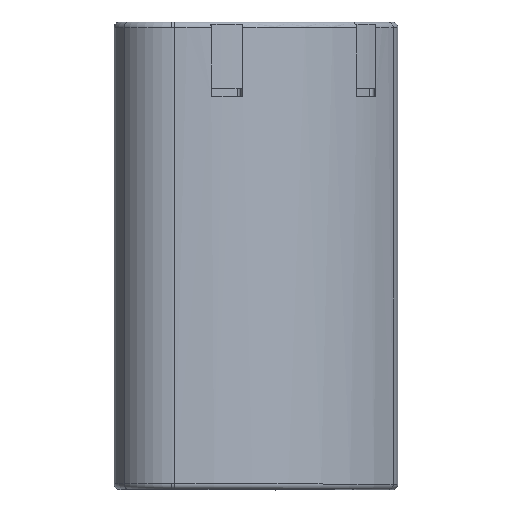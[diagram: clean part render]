
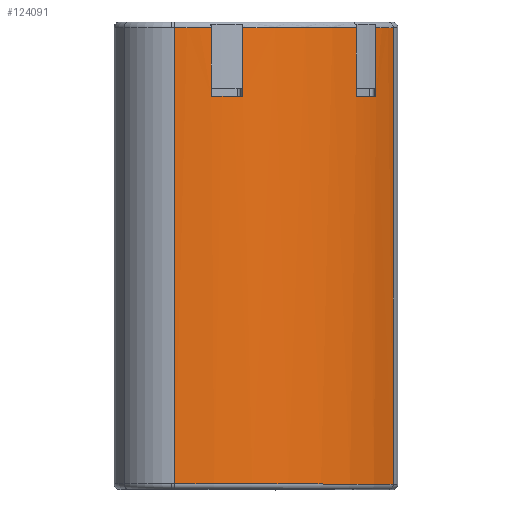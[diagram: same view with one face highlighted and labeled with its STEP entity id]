
A CAD part, top view. The second image highlights one B-rep face of the part: STEP entity #124091.
In plain terms, the highlighted cylindrical face has radius 46 mm (diameter 92 mm), a partial arc.
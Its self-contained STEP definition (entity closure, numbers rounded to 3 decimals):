
#4731 = ORIENTED_EDGE ( 'NONE', *, *, #161964, .T. ) ;
#5377 = VERTEX_POINT ( 'NONE', #63649 ) ;
#9258 = LINE ( 'NONE', #18256, #56461 ) ;
#11492 = CARTESIAN_POINT ( 'NONE',  ( 2.407, 1., 45.937 ) ) ;
#13729 = DIRECTION ( 'NONE',  ( 0., 1., 0. ) ) ;
#14701 = DIRECTION ( 'NONE',  ( 0., 1., 0. ) ) ;
#15921 = DIRECTION ( 'NONE',  ( 0., -1., 0. ) ) ;
#18256 = CARTESIAN_POINT ( 'NONE',  ( 42.023, 84.8, 18.71 ) ) ;
#19686 = ORIENTED_EDGE ( 'NONE', *, *, #161058, .F. ) ;
#20620 = LINE ( 'NONE', #165040, #42028 ) ;
#20732 = CARTESIAN_POINT ( 'NONE',  ( 42.023, 1., 18.71 ) ) ;
#21273 = AXIS2_PLACEMENT_3D ( 'NONE', #122080, #120928, #65538 ) ;
#23513 = CARTESIAN_POINT ( 'NONE',  ( 0., 84.8, 0. ) ) ;
#25273 = VERTEX_POINT ( 'NONE', #153564 ) ;
#27508 = DIRECTION ( 'NONE',  ( 0., 0., 1. ) ) ;
#28202 = EDGE_CURVE ( 'NONE', #132418, #69460, #53023, .T. ) ;
#33699 = ORIENTED_EDGE ( 'NONE', *, *, #63734, .F. ) ;
#34965 = ORIENTED_EDGE ( 'NONE', *, *, #171893, .T. ) ;
#35967 = ORIENTED_EDGE ( 'NONE', *, *, #100889, .F. ) ;
#36297 = ORIENTED_EDGE ( 'NONE', *, *, #28202, .F. ) ;
#37222 = CARTESIAN_POINT ( 'NONE',  ( 0., 71.3, 0. ) ) ;
#37949 = EDGE_CURVE ( 'NONE', #69460, #5377, #134754, .T. ) ;
#41941 = DIRECTION ( 'NONE',  ( 0., 1., 0. ) ) ;
#42028 = VECTOR ( 'NONE', #41941, 1000. ) ;
#43330 = VERTEX_POINT ( 'NONE', #117598 ) ;
#44153 = FACE_OUTER_BOUND ( 'NONE', #159775, .T. ) ;
#44710 = CARTESIAN_POINT ( 'NONE',  ( 14.773, 84.8, 43.563 ) ) ;
#44961 = ORIENTED_EDGE ( 'NONE', *, *, #75477, .T. ) ;
#45952 = CARTESIAN_POINT ( 'NONE',  ( 0., 83.8, 0. ) ) ;
#47726 = AXIS2_PLACEMENT_3D ( 'NONE', #86424, #154808, #70220 ) ;
#50707 = VERTEX_POINT ( 'NONE', #96027 ) ;
#52267 = DIRECTION ( 'NONE',  ( 0., 0., 1. ) ) ;
#53023 = CIRCLE ( 'NONE', #97457, 46. ) ;
#54019 = CIRCLE ( 'NONE', #21273, 46. ) ;
#56461 = VECTOR ( 'NONE', #99524, 1000. ) ;
#58332 = AXIS2_PLACEMENT_3D ( 'NONE', #45952, #15921, #125957 ) ;
#61482 = VERTEX_POINT ( 'NONE', #138561 ) ;
#63649 = CARTESIAN_POINT ( 'NONE',  ( 14.773, 83.8, 43.563 ) ) ;
#63734 = EDGE_CURVE ( 'NONE', #61482, #132418, #164938, .T. ) ;
#65538 = DIRECTION ( 'NONE',  ( 0., 0., 1. ) ) ;
#69460 = VERTEX_POINT ( 'NONE', #70635 ) ;
#70220 = DIRECTION ( 'NONE',  ( 0., 0., 1. ) ) ;
#70635 = CARTESIAN_POINT ( 'NONE',  ( 14.773, 71.3, 43.563 ) ) ;
#72234 = AXIS2_PLACEMENT_3D ( 'NONE', #124943, #13729, #27508 ) ;
#75477 = EDGE_CURVE ( 'NONE', #43330, #5377, #76047, .T. ) ;
#76047 = CIRCLE ( 'NONE', #47726, 46. ) ;
#77909 = CARTESIAN_POINT ( 'NONE',  ( 9.036, 84.8, 45.104 ) ) ;
#78929 = VECTOR ( 'NONE', #14701, 1000. ) ;
#80239 = CIRCLE ( 'NONE', #58332, 46. ) ;
#80505 = DIRECTION ( 'NONE',  ( 0., 1., 0. ) ) ;
#84635 = AXIS2_PLACEMENT_3D ( 'NONE', #23513, #92721, #147288 ) ;
#86424 = CARTESIAN_POINT ( 'NONE',  ( 0., 83.8, 0. ) ) ;
#88809 = EDGE_CURVE ( 'NONE', #166227, #156263, #177856, .T. ) ;
#89931 = VECTOR ( 'NONE', #115128, 1000. ) ;
#92009 = DIRECTION ( 'NONE',  ( 0., 0., 1. ) ) ;
#92721 = DIRECTION ( 'NONE',  ( 0., -1., 0. ) ) ;
#95263 = CARTESIAN_POINT ( 'NONE',  ( 2.407, 83.8, 45.937 ) ) ;
#96027 = CARTESIAN_POINT ( 'NONE',  ( 38.87, 83.8, 24.6 ) ) ;
#97233 = LINE ( 'NONE', #104973, #170152 ) ;
#97457 = AXIS2_PLACEMENT_3D ( 'NONE', #37222, #133496, #92009 ) ;
#99524 = DIRECTION ( 'NONE',  ( 0., -1., 0. ) ) ;
#99535 = CIRCLE ( 'NONE', #152978, 46. ) ;
#100889 = EDGE_CURVE ( 'NONE', #144028, #50707, #20620, .T. ) ;
#101847 = EDGE_CURVE ( 'NONE', #61482, #166227, #80239, .T. ) ;
#104973 = CARTESIAN_POINT ( 'NONE',  ( 35.376, 84.8, 29.403 ) ) ;
#108624 = CARTESIAN_POINT ( 'NONE',  ( 35.376, 71.3, 29.403 ) ) ;
#110494 = ORIENTED_EDGE ( 'NONE', *, *, #148711, .F. ) ;
#110750 = VERTEX_POINT ( 'NONE', #108624 ) ;
#111654 = ORIENTED_EDGE ( 'NONE', *, *, #88809, .T. ) ;
#112784 = CIRCLE ( 'NONE', #72234, 46. ) ;
#115128 = DIRECTION ( 'NONE',  ( 0., -1., 0. ) ) ;
#117598 = CARTESIAN_POINT ( 'NONE',  ( 35.376, 83.8, 29.403 ) ) ;
#118161 = DIRECTION ( 'NONE',  ( 0., -1., 0. ) ) ;
#120928 = DIRECTION ( 'NONE',  ( 0., -1., 0. ) ) ;
#122080 = CARTESIAN_POINT ( 'NONE',  ( 0., 83.8, 0. ) ) ;
#124091 = ADVANCED_FACE ( 'NONE', ( #44153 ), #143127, .T. ) ;
#124943 = CARTESIAN_POINT ( 'NONE',  ( 0., 71.3, 0. ) ) ;
#125144 = ORIENTED_EDGE ( 'NONE', *, *, #101847, .T. ) ;
#125957 = DIRECTION ( 'NONE',  ( 0., 0., 1. ) ) ;
#132418 = VERTEX_POINT ( 'NONE', #165624 ) ;
#133496 = DIRECTION ( 'NONE',  ( 0., 1., 0. ) ) ;
#134754 = LINE ( 'NONE', #44710, #78929 ) ;
#136694 = ORIENTED_EDGE ( 'NONE', *, *, #37949, .F. ) ;
#136894 = CARTESIAN_POINT ( 'NONE',  ( 0., 1., 0. ) ) ;
#138561 = CARTESIAN_POINT ( 'NONE',  ( 9.036, 83.8, 45.104 ) ) ;
#143127 = CYLINDRICAL_SURFACE ( 'NONE', #84635, 46. ) ;
#144028 = VERTEX_POINT ( 'NONE', #152175 ) ;
#147288 = DIRECTION ( 'NONE',  ( 0., 0., -1. ) ) ;
#148711 = EDGE_CURVE ( 'NONE', #25273, #158084, #9258, .T. ) ;
#152175 = CARTESIAN_POINT ( 'NONE',  ( 38.87, 71.3, 24.6 ) ) ;
#152978 = AXIS2_PLACEMENT_3D ( 'NONE', #136894, #80505, #52267 ) ;
#153564 = CARTESIAN_POINT ( 'NONE',  ( 42.023, 83.8, 18.71 ) ) ;
#154236 = VECTOR ( 'NONE', #173890, 1000. ) ;
#154808 = DIRECTION ( 'NONE',  ( 0., -1., 0. ) ) ;
#156263 = VERTEX_POINT ( 'NONE', #11492 ) ;
#158084 = VERTEX_POINT ( 'NONE', #20732 ) ;
#159775 = EDGE_LOOP ( 'NONE', ( #169678, #44961, #136694, #36297, #33699, #125144, #111654, #4731, #110494, #34965, #35967, #19686 ) ) ;
#161058 = EDGE_CURVE ( 'NONE', #110750, #144028, #112784, .T. ) ;
#161964 = EDGE_CURVE ( 'NONE', #156263, #158084, #99535, .T. ) ;
#164938 = LINE ( 'NONE', #77909, #154236 ) ;
#165040 = CARTESIAN_POINT ( 'NONE',  ( 38.87, 84.8, 24.6 ) ) ;
#165624 = CARTESIAN_POINT ( 'NONE',  ( 9.036, 71.3, 45.104 ) ) ;
#166227 = VERTEX_POINT ( 'NONE', #95263 ) ;
#169678 = ORIENTED_EDGE ( 'NONE', *, *, #175622, .F. ) ;
#170152 = VECTOR ( 'NONE', #118161, 1000. ) ;
#170817 = CARTESIAN_POINT ( 'NONE',  ( 2.407, 84.8, 45.937 ) ) ;
#171893 = EDGE_CURVE ( 'NONE', #25273, #50707, #54019, .T. ) ;
#173890 = DIRECTION ( 'NONE',  ( 0., -1., 0. ) ) ;
#175622 = EDGE_CURVE ( 'NONE', #43330, #110750, #97233, .T. ) ;
#177856 = LINE ( 'NONE', #170817, #89931 ) ;
